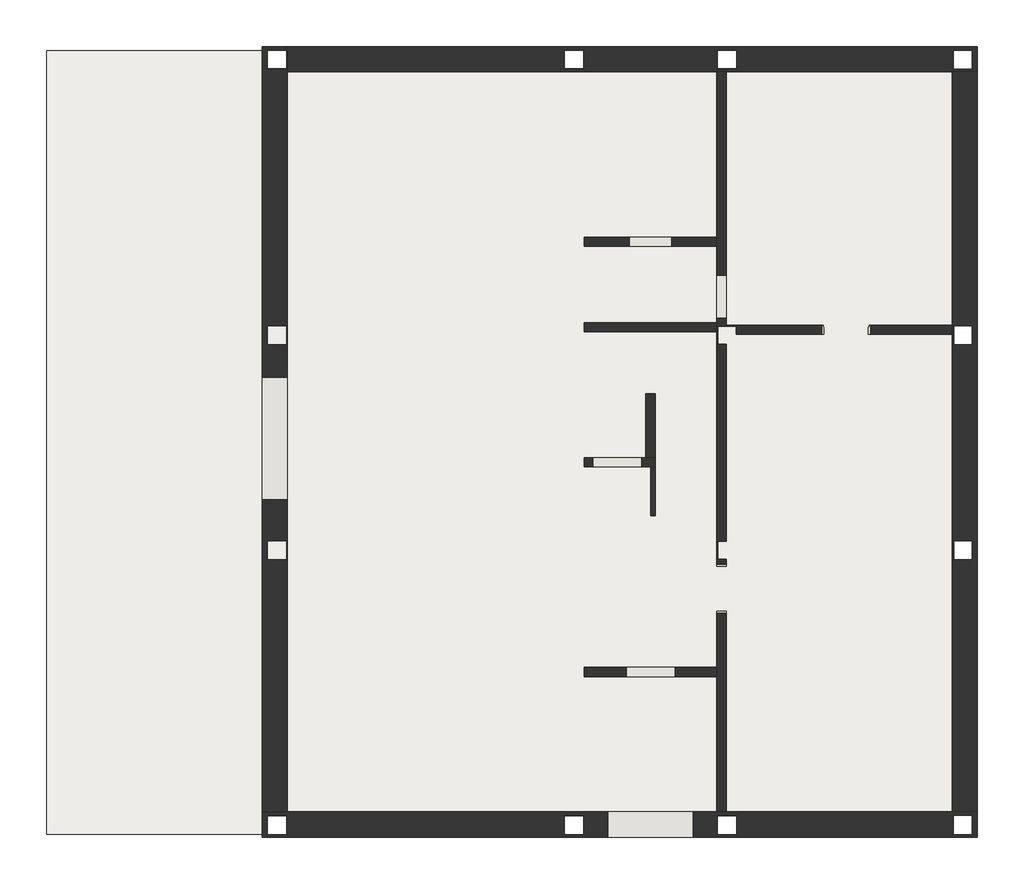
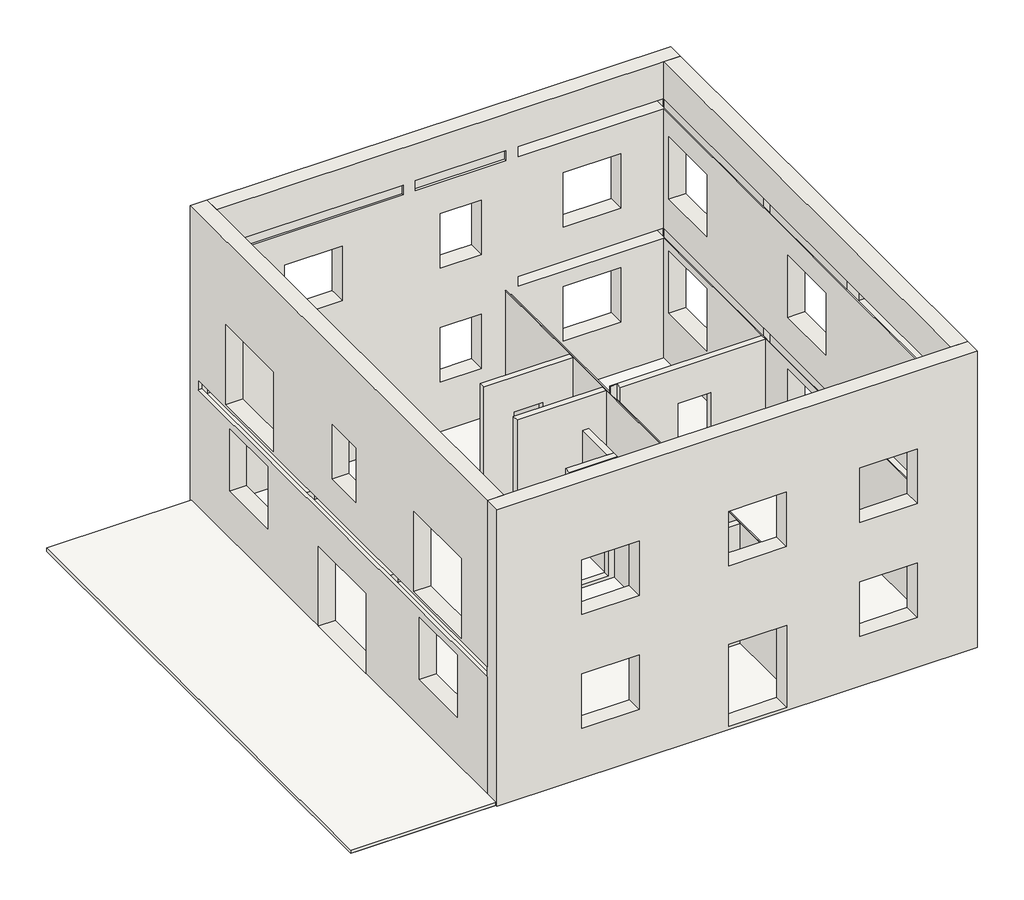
# One storey: 12 walls, 2 slabs.
"""IFC4 building model written with IfcOpenShell, lengths in millimetres."""

from ifc_helpers import new_model, si_unit, frame, origin, place, context, project, spatial, polyline, outline, extrude, faceted_brep, element, save

model = new_model("IFC4")

# Units and contexts
model_context = context("Model", 3, world=origin())
ifc_project = project(units=[si_unit("LENGTHUNIT", "METRE", prefix="MILLI")], contexts=[model_context])

# Site, building, storey
site = spatial("IfcSite", under=ifc_project)
building = spatial("IfcBuilding", under=site)
storey = spatial("IfcBuildingStorey", under=building, Name="01.ES.FORJADO PLANTA BAJA", Elevation=120.0)

# Slabs
placement = place(None, origin())
element("IfcSlab", 1, ObjectType="Forjado bovedilla + vigueta - 25 cm", at=placement, inside=storey, context=model_context, shape_type="SweptSolid", body=[
    extrude(outline(polyline([(15265.0, 12950.0), (15265.0, 750.0), (750.0, 750.0), (750.0, 12950.0), (15265.0, 12950.0)])), frame((0.0, 0.0, -130.0), z_axis=(0.0, 0.0, 1.0), x_axis=(1.0, 0.0, 0.0)), (0.0, 0.0, 1.0), 250.0),
])
element("IfcSlab", 2, ObjectType="Solera - 8 cm", at=placement, inside=storey, context=model_context, shape_type="SweptSolid", body=[
    extrude(outline(polyline([(3975.0, 13250.0), (3975.0, 450.0), (450.0, 450.0), (450.0, 13250.0), (3975.0, 13250.0)])), frame((0.0, 0.0, 120.0), z_axis=(0.0, 0.0, 1.0), x_axis=(1.0, 0.0, 0.0)), (0.0, 0.0, 1.0), 80.0),
])

# Walls
element("IfcWall", 3, ObjectType="F3.2", at=placement, inside=storey, context=model_context, shape_type="Brep", body=[
    faceted_brep([(15655.0, 815.0, 120.0), (15245.0, 815.0, 120.0), (11550.0, 815.0, 120.0), (11400.0, 815.0, 120.0), (9230.0, 815.0, 120.0), (9080.0, 815.0, 120.0), (4385.0, 815.0, 120.0), (3975.0, 815.0, 120.0), (3975.0, 815.0, 3200.0), (3975.0, 815.0, 3450.0), (3975.0, 815.0, 7730.0), (4385.0, 815.0, 7730.0), (15245.0, 815.0, 7730.0), (15655.0, 815.0, 7730.0), (11015.0, 815.0, 200.0), (11015.0, 815.0, 2300.0), (9615.0, 815.0, 2300.0), (9615.0, 815.0, 200.0), (7435.0, 815.0, 1400.0), (7435.0, 815.0, 2800.0), (6035.0, 815.0, 2800.0), (6035.0, 815.0, 1400.0), (14190.0, 815.0, 1400.0), (14190.0, 815.0, 2800.0), (12790.0, 815.0, 2800.0), (12790.0, 815.0, 1400.0), (14190.0, 815.0, 4330.0), (14190.0, 815.0, 5730.0), (12790.0, 815.0, 5730.0), (12790.0, 815.0, 4330.0), (7435.0, 815.0, 4330.0), (7435.0, 815.0, 5730.0), (6035.0, 815.0, 5730.0), (6035.0, 815.0, 4330.0), (11715.0, 815.0, 6530.0), (15245.0, 815.0, 6530.0), (15265.0, 815.0, 6530.0), (15265.0, 815.0, 6780.0), (15245.0, 815.0, 6780.0), (11715.0, 815.0, 6780.0), (11715.0, 815.0, 3200.0), (15245.0, 815.0, 3200.0), (15265.0, 815.0, 3200.0), (15265.0, 815.0, 3450.0), (15245.0, 815.0, 3450.0), (11715.0, 815.0, 3450.0), (11010.0, 815.0, 4330.0), (11010.0, 815.0, 5730.0), (9610.0, 815.0, 5730.0), (9610.0, 815.0, 4330.0), (3975.0, 405.0, 120.0), (15655.0, 405.0, 120.0), (15655.0, 405.0, 7730.0), (3975.0, 405.0, 7730.0), (11015.0, 405.0, 2300.0), (11015.0, 405.0, 200.0), (9615.0, 405.0, 200.0), (9615.0, 405.0, 2300.0), (7435.0, 405.0, 2800.0), (7435.0, 405.0, 1400.0), (6035.0, 405.0, 1400.0), (6035.0, 405.0, 2800.0), (14190.0, 405.0, 2800.0), (14190.0, 405.0, 1400.0), (12790.0, 405.0, 1400.0), (12790.0, 405.0, 2800.0), (14190.0, 405.0, 5730.0), (14190.0, 405.0, 4330.0), (12790.0, 405.0, 4330.0), (12790.0, 405.0, 5730.0), (7435.0, 405.0, 5730.0), (7435.0, 405.0, 4330.0), (6035.0, 405.0, 4330.0), (6035.0, 405.0, 5730.0), (11010.0, 405.0, 5730.0), (11010.0, 405.0, 4330.0), (9610.0, 405.0, 4330.0), (9610.0, 405.0, 5730.0), (4365.0, 750.0, 120.0), (4065.0, 750.0, 120.0), (4065.0, 450.0, 120.0), (4365.0, 450.0, 120.0), (9215.0, 750.0, 120.0), (8915.0, 750.0, 120.0), (8915.0, 450.0, 120.0), (9215.0, 450.0, 120.0), (11715.0, 750.0, 120.0), (11415.0, 750.0, 120.0), (11415.0, 450.0, 120.0), (11715.0, 450.0, 120.0), (15565.0, 750.0, 120.0), (15265.0, 750.0, 120.0), (15265.0, 450.0, 120.0), (15565.0, 450.0, 120.0), (15265.0, 750.0, 6780.0), (15565.0, 750.0, 6780.0), (15565.0, 450.0, 6780.0), (15265.0, 450.0, 6780.0), (15265.0, 475.0, 6780.0), (11715.0, 475.0, 6780.0), (11715.0, 450.0, 6780.0), (11415.0, 450.0, 6780.0), (11415.0, 750.0, 6780.0), (11715.0, 750.0, 6780.0), (15265.0, 750.0, 6530.0), (15265.0, 750.0, 3450.0), (15265.0, 750.0, 3200.0), (15565.0, 750.0, 3450.0), (15265.0, 725.0, 3200.0), (15265.0, 475.0, 3200.0), (15265.0, 475.0, 3450.0), (15265.0, 725.0, 3450.0), (15265.0, 725.0, 6530.0), (15265.0, 475.0, 6530.0), (15265.0, 450.0, 3450.0), (15565.0, 450.0, 3450.0), (11415.0, 750.0, 3450.0), (11715.0, 750.0, 3200.0), (11715.0, 750.0, 3450.0), (11715.0, 750.0, 6530.0), (11415.0, 450.0, 3450.0), (11715.0, 450.0, 3450.0), (11715.0, 475.0, 6530.0), (11715.0, 725.0, 6530.0), (11715.0, 725.0, 3450.0), (11715.0, 475.0, 3450.0), (11715.0, 475.0, 3200.0), (11715.0, 725.0, 3200.0), (8915.0, 750.0, 6780.0), (9215.0, 750.0, 6780.0), (9215.0, 450.0, 6780.0), (8915.0, 450.0, 6780.0), (8915.0, 750.0, 3450.0), (9215.0, 750.0, 3450.0), (8915.0, 450.0, 3450.0), (9215.0, 450.0, 3450.0), (4065.0, 750.0, 6780.0), (4365.0, 750.0, 6780.0), (4365.0, 450.0, 6780.0), (4065.0, 450.0, 6780.0), (4065.0, 750.0, 3450.0), (4365.0, 750.0, 3450.0), (4065.0, 450.0, 3450.0), (4365.0, 450.0, 3450.0)], [[[0, 1, 2, 3, 4, 5, 6, 7, 8, 9, 10, 11, 12, 13], [14, 15, 16, 17], [18, 19, 20, 21], [22, 23, 24, 25], [26, 27, 28, 29], [30, 31, 32, 33], [34, 35, 36, 37, 38, 39], [40, 41, 42, 43, 44, 45], [46, 47, 48, 49]], [[50, 51, 52, 53], [54, 55, 56, 57], [58, 59, 60, 61], [62, 63, 64, 65], [66, 67, 68, 69], [70, 71, 72, 73], [74, 75, 76, 77]], [[7, 6, 5, 4, 3, 2, 1, 0, 51, 50], [78, 79, 80, 81], [82, 83, 84, 85], [86, 87, 88, 89], [90, 91, 92, 93]], [[13, 12, 11, 10, 53, 52]], [[0, 13, 52, 51]], [[94, 95, 96, 97, 98, 99, 100, 101, 102, 103, 39, 38, 37]], [[95, 94, 104, 105, 106, 91, 90, 107]], [[92, 91, 106, 108, 109, 110, 111, 105, 104, 112, 113, 98, 97, 114]], [[97, 96, 115, 93, 92, 114]], [[96, 95, 107, 90, 93, 115]], [[103, 102, 116, 87, 86, 117, 118, 119]], [[102, 101, 120, 88, 87, 116]], [[101, 100, 121, 89, 88, 120]], [[86, 89, 121, 100, 99, 122, 123, 119, 118, 124, 125, 126, 127, 117]], [[128, 129, 130, 131]], [[129, 128, 132, 83, 82, 133]], [[128, 131, 134, 84, 83, 132]], [[131, 130, 135, 85, 84, 134]], [[130, 129, 133, 82, 85, 135]], [[136, 137, 138, 139]], [[137, 136, 140, 79, 78, 141]], [[136, 139, 142, 80, 79, 140]], [[139, 138, 143, 81, 80, 142]], [[138, 137, 141, 78, 81, 143]], [[15, 14, 55, 54]], [[16, 15, 54, 57]], [[17, 16, 57, 56]], [[14, 17, 56, 55]], [[19, 18, 59, 58]], [[20, 19, 58, 61]], [[21, 20, 61, 60]], [[18, 21, 60, 59]], [[23, 22, 63, 62]], [[24, 23, 62, 65]], [[25, 24, 65, 64]], [[22, 25, 64, 63]], [[27, 26, 67, 66]], [[28, 27, 66, 69]], [[29, 28, 69, 68]], [[26, 29, 68, 67]], [[31, 30, 71, 70]], [[32, 31, 70, 73]], [[33, 32, 73, 72]], [[30, 33, 72, 71]], [[34, 119, 123, 122, 113, 112, 104, 36, 35]], [[36, 104, 94, 37]], [[119, 34, 39, 103]], [[40, 117, 127, 126, 109, 108, 106, 42, 41]], [[43, 105, 111, 110, 125, 124, 118, 45, 44]], [[42, 106, 105, 43]], [[117, 40, 45, 118]], [[99, 98, 113, 122]], [[125, 110, 109, 126]], [[47, 46, 75, 74]], [[48, 47, 74, 77]], [[49, 48, 77, 76]], [[46, 49, 76, 75]], [[7, 50, 53, 10, 9, 8]]]),
])
element("IfcWall", 4, ObjectType="F3.2", at=placement, inside=storey, context=model_context, shape_type="Brep", body=[
    faceted_brep([(4385.0, 815.0, 120.0), (4385.0, 12906.5177396, 120.0), (4385.0, 13316.5177396, 120.0), (4385.0, 13316.5177396, 7730.0), (4385.0, 12906.5177396, 7730.0), (4385.0, 815.0, 7730.0), (4385.0, 815.0, 6780.0), (4385.0, 12906.5177396, 6780.0), (4385.0, 12950.0, 6780.0), (4385.0, 12950.0, 6530.0), (4385.0, 12906.5177396, 6530.0), (4385.0, 8055.0610844, 6530.0), (4385.0, 7905.0610844, 6530.0), (4385.0, 5255.0610844, 6530.0), (4385.0, 5105.0610844, 6530.0), (4385.0, 815.0, 6530.0), (4385.0, 815.0, 3450.0), (4385.0, 5105.0610844, 3450.0), (4385.0, 5255.0610844, 3450.0), (4385.0, 7905.0610844, 3450.0), (4385.0, 8055.0610844, 3450.0), (4385.0, 12975.0, 3450.0), (4385.0, 12975.0, 3200.0), (4385.0, 815.0, 3200.0), (4385.0, 1895.0305422, 3530.0), (4385.0, 1895.0305422, 5580.0), (4385.0, 3895.0305422, 5580.0), (4385.0, 3895.0305422, 3530.0), (4385.0, 9811.5177396, 3530.0), (4385.0, 9811.5177396, 5580.0), (4385.0, 11811.5177396, 5580.0), (4385.0, 11811.5177396, 3530.0), (4385.0, 7911.5177396, 2250.0), (4385.0, 7911.5177396, 200.0), (4385.0, 5911.5177396, 200.0), (4385.0, 5911.5177396, 2250.0), (4385.0, 10051.5177396, 1400.0), (4385.0, 10051.5177396, 3000.0), (4385.0, 11651.5177396, 3000.0), (4385.0, 11651.5177396, 1400.0), (4385.0, 2070.0, 1400.0), (4385.0, 2070.0, 3000.0), (4385.0, 3670.0, 3000.0), (4385.0, 3670.0, 1400.0), (4385.0, 6340.0610844, 4330.0), (4385.0, 6340.0610844, 5730.0), (4385.0, 7340.0610844, 5730.0), (4385.0, 7340.0610844, 4330.0), (3975.0, 13316.5177396, 120.0), (3975.0, 815.0, 120.0), (3975.0, 815.0, 3200.0), (3975.0, 12975.0, 3200.0), (3975.0, 12975.0, 3450.0), (3975.0, 815.0, 3450.0), (3975.0, 815.0, 7730.0), (3975.0, 13316.5177396, 7730.0), (3975.0, 1895.0305422, 5580.0), (3975.0, 1895.0305422, 3530.0), (3975.0, 3895.0305422, 3530.0), (3975.0, 3895.0305422, 5580.0), (3975.0, 9811.5177396, 5580.0), (3975.0, 9811.5177396, 3530.0), (3975.0, 11811.5177396, 3530.0), (3975.0, 11811.5177396, 5580.0), (3975.0, 7911.5177396, 200.0), (3975.0, 7911.5177396, 2250.0), (3975.0, 5911.5177396, 2250.0), (3975.0, 5911.5177396, 200.0), (3975.0, 10051.5177396, 3000.0), (3975.0, 10051.5177396, 1400.0), (3975.0, 11651.5177396, 1400.0), (3975.0, 11651.5177396, 3000.0), (3975.0, 2070.0, 3000.0), (3975.0, 2070.0, 1400.0), (3975.0, 3670.0, 1400.0), (3975.0, 3670.0, 3000.0), (3975.0, 6340.0610844, 5730.0), (3975.0, 6340.0610844, 4330.0), (3975.0, 7340.0610844, 4330.0), (3975.0, 7340.0610844, 5730.0), (4365.0, 13250.0, 120.0), (4065.0, 13250.0, 120.0), (4065.0, 12950.0, 120.0), (4365.0, 12950.0, 120.0), (4365.0, 8750.0, 120.0), (4065.0, 8750.0, 120.0), (4065.0, 8450.0, 120.0), (4365.0, 8450.0, 120.0), (4365.0, 5240.0610844, 120.0), (4065.0, 5240.0610844, 120.0), (4065.0, 4940.0610844, 120.0), (4365.0, 4940.0610844, 120.0), (4365.0, 12975.0, 3450.0), (4065.0, 12975.0, 3450.0), (4065.0, 12950.0, 3450.0), (4365.0, 12950.0, 3450.0), (4065.0, 4940.0610844, 3450.0), (4365.0, 4940.0610844, 3450.0), (4365.0, 5240.0610844, 3450.0), (4065.0, 5240.0610844, 3450.0), (4365.0, 8750.0, 3450.0), (4065.0, 8750.0, 3450.0), (4065.0, 8450.0, 3450.0), (4365.0, 8450.0, 3450.0), (4365.0, 8450.0, 3050.0), (4365.0, 5240.0610844, 3050.0), (4365.0, 4940.0610844, 3050.0), (4365.0, 815.0, 3050.0), (4365.0, 815.0, 3200.0), (4365.0, 12975.0, 3200.0), (4365.0, 12950.0, 6530.0), (4365.0, 12950.0, 6780.0), (4365.0, 13250.0, 6780.0), (4365.0, 13250.0, 3450.0), (4365.0, 12950.0, 3050.0), (4365.0, 8750.0, 3050.0), (4065.0, 4940.0610844, 3050.0), (4065.0, 815.0, 3050.0), (4065.0, 8750.0, 3050.0), (4065.0, 12950.0, 3050.0), (4065.0, 13250.0, 3450.0), (4065.0, 13250.0, 6780.0), (4065.0, 12950.0, 6780.0), (4065.0, 12975.0, 3200.0), (4065.0, 815.0, 3200.0), (4065.0, 5240.0610844, 3050.0), (4065.0, 8450.0, 3050.0), (4365.0, 12950.0, 6780.0), (4065.0, 815.0, 6780.0), (4065.0, 4940.0610844, 6780.0), (4065.0, 5240.0610844, 6780.0), (4065.0, 8450.0, 6780.0), (4065.0, 8750.0, 6780.0), (4365.0, 8750.0, 6780.0), (4365.0, 4940.0610844, 6380.0), (4365.0, 815.0, 6380.0), (4365.0, 815.0, 6530.0), (4365.0, 8750.0, 6530.0), (4365.0, 8450.0, 6380.0), (4365.0, 5240.0610844, 6380.0), (4065.0, 4940.0610844, 6380.0), (4065.0, 815.0, 6380.0), (4065.0, 5240.0610844, 6380.0), (4065.0, 8450.0, 6380.0), (4365.0, 12950.0, 6530.0)], [[[0, 1, 2, 3, 4, 5, 6, 7, 8, 9, 10, 11, 12, 13, 14, 15, 16, 17, 18, 19, 20, 21, 22, 23], [24, 25, 26, 27], [28, 29, 30, 31], [32, 33, 34, 35], [36, 37, 38, 39], [40, 41, 42, 43], [44, 45, 46, 47]], [[48, 49, 50, 51, 52, 53, 54, 55], [56, 57, 58, 59], [60, 61, 62, 63], [64, 65, 66, 67], [68, 69, 70, 71], [72, 73, 74, 75], [76, 77, 78, 79]], [[2, 1, 0, 49, 48], [80, 81, 82, 83], [84, 85, 86, 87], [88, 89, 90, 91]], [[5, 4, 3, 55, 54]], [[92, 21, 20, 19, 18, 17, 16, 53, 52, 93, 94, 95], [96, 97, 98, 99], [100, 101, 102, 103]], [[84, 87, 104, 105, 88, 91, 106, 107, 108, 109, 92, 95, 110, 111, 112, 113, 80, 83, 114, 115]], [[106, 116, 117, 107]], [[86, 85, 118, 119, 82, 81, 120, 121, 122, 94, 93, 123, 124, 117, 116, 90, 89, 125, 126]], [[127, 8, 7, 6, 128, 129, 130, 131, 132, 133]], [[134, 135, 136, 137, 100, 103, 138, 139, 98, 97]], [[135, 134, 140, 141]], [[141, 140, 96, 99, 142, 143, 102, 101, 132, 131, 130, 129, 128]], [[9, 144, 137, 136, 15, 14, 13, 12, 11, 10]], [[144, 127, 133, 137]], [[127, 144, 9, 8]], [[22, 109, 108, 23]], [[109, 22, 21, 92]], [[124, 123, 51, 50]], [[51, 123, 93, 52]], [[25, 24, 57, 56]], [[26, 25, 56, 59]], [[27, 26, 59, 58]], [[24, 27, 58, 57]], [[29, 28, 61, 60]], [[30, 29, 60, 63]], [[31, 30, 63, 62]], [[28, 31, 62, 61]], [[65, 64, 33, 32]], [[66, 65, 32, 35]], [[67, 66, 35, 34]], [[64, 67, 34, 33]], [[121, 112, 111, 122]], [[112, 121, 120, 81, 80, 113]], [[122, 111, 110, 95, 94]], [[83, 82, 119, 114]], [[89, 88, 105, 125]], [[99, 98, 139, 142]], [[134, 97, 96, 140]], [[133, 132, 101, 100, 137]], [[85, 84, 115, 118]], [[87, 86, 126, 104]], [[103, 102, 143, 138]], [[90, 116, 106, 91]], [[37, 36, 69, 68]], [[38, 37, 68, 71]], [[39, 38, 71, 70]], [[36, 39, 70, 69]], [[41, 40, 73, 72]], [[42, 41, 72, 75]], [[43, 42, 75, 74]], [[40, 43, 74, 73]], [[45, 44, 77, 76]], [[46, 45, 76, 79]], [[47, 46, 79, 78]], [[44, 47, 78, 77]], [[126, 125, 105, 104]], [[139, 138, 143, 142]], [[119, 118, 115, 114]], [[2, 48, 55, 3]], [[5, 54, 53, 16, 15, 136, 135, 141, 128, 6]], [[49, 0, 23, 108, 107, 117, 124, 50]]]),
])
element("IfcWall", 5, ObjectType="F3.2", at=placement, inside=storey, context=model_context, shape_type="Brep", body=[
    faceted_brep([(4385.0, 12906.5177396, 120.0), (9080.0, 12906.5177396, 120.0), (9230.0, 12906.5177396, 120.0), (11400.0, 12906.5177396, 120.0), (11550.0, 12906.5177396, 120.0), (15245.0, 12906.5177396, 120.0), (15655.0, 12906.5177396, 120.0), (15655.0, 12906.5177396, 7730.0), (15245.0, 12906.5177396, 7730.0), (4385.0, 12906.5177396, 7730.0), (4385.0, 12906.5177396, 6780.0), (8915.0, 12906.5177396, 6780.0), (8915.0, 12906.5177396, 6530.0), (4385.0, 12906.5177396, 6530.0), (15265.0, 12906.5177396, 6530.0), (15245.0, 12906.5177396, 6530.0), (11715.0, 12906.5177396, 6530.0), (11715.0, 12906.5177396, 6780.0), (15245.0, 12906.5177396, 6780.0), (15265.0, 12906.5177396, 6780.0), (11415.0, 12906.5177396, 6530.0), (9215.0, 12906.5177396, 6530.0), (9215.0, 12906.5177396, 6780.0), (11415.0, 12906.5177396, 6780.0), (6035.0, 12906.5177396, 1400.0), (6035.0, 12906.5177396, 2800.0), (7435.0, 12906.5177396, 2800.0), (7435.0, 12906.5177396, 1400.0), (12810.0, 12906.5177396, 1400.0), (12810.0, 12906.5177396, 2800.0), (14210.0, 12906.5177396, 2800.0), (14210.0, 12906.5177396, 1400.0), (12810.0, 12906.5177396, 4330.0), (12810.0, 12906.5177396, 5730.0), (14210.0, 12906.5177396, 5730.0), (14210.0, 12906.5177396, 4330.0), (6035.0, 12906.5177396, 4330.0), (6035.0, 12906.5177396, 5730.0), (7435.0, 12906.5177396, 5730.0), (7435.0, 12906.5177396, 4330.0), (9815.0, 12906.5177396, 4330.0), (9815.0, 12906.5177396, 5730.0), (10815.0, 12906.5177396, 5730.0), (10815.0, 12906.5177396, 4330.0), (15265.0, 12906.5177396, 3200.0), (15245.0, 12906.5177396, 3200.0), (11715.0, 12906.5177396, 3200.0), (11715.0, 12906.5177396, 3450.0), (15245.0, 12906.5177396, 3450.0), (15265.0, 12906.5177396, 3450.0), (9815.0, 12906.5177396, 1400.0), (9815.0, 12906.5177396, 2800.0), (10815.0, 12906.5177396, 2800.0), (10815.0, 12906.5177396, 1400.0), (15655.0, 13316.5177396, 120.0), (4385.0, 13316.5177396, 120.0), (4385.0, 13316.5177396, 7730.0), (15655.0, 13316.5177396, 7730.0), (6035.0, 13316.5177396, 2800.0), (6035.0, 13316.5177396, 1400.0), (7435.0, 13316.5177396, 1400.0), (7435.0, 13316.5177396, 2800.0), (12810.0, 13316.5177396, 2800.0), (12810.0, 13316.5177396, 1400.0), (14210.0, 13316.5177396, 1400.0), (14210.0, 13316.5177396, 2800.0), (12810.0, 13316.5177396, 5730.0), (12810.0, 13316.5177396, 4330.0), (14210.0, 13316.5177396, 4330.0), (14210.0, 13316.5177396, 5730.0), (6035.0, 13316.5177396, 5730.0), (6035.0, 13316.5177396, 4330.0), (7435.0, 13316.5177396, 4330.0), (7435.0, 13316.5177396, 5730.0), (9815.0, 13316.5177396, 5730.0), (9815.0, 13316.5177396, 4330.0), (10815.0, 13316.5177396, 4330.0), (10815.0, 13316.5177396, 5730.0), (9815.0, 13316.5177396, 2800.0), (9815.0, 13316.5177396, 1400.0), (10815.0, 13316.5177396, 1400.0), (10815.0, 13316.5177396, 2800.0), (15565.0, 13250.0, 120.0), (15265.0, 13250.0, 120.0), (15265.0, 12950.0, 120.0), (15565.0, 12950.0, 120.0), (11715.0, 13250.0, 120.0), (11415.0, 13250.0, 120.0), (11415.0, 12950.0, 120.0), (11715.0, 12950.0, 120.0), (9215.0, 13250.0, 120.0), (8915.0, 13250.0, 120.0), (8915.0, 12950.0, 120.0), (9215.0, 12950.0, 120.0), (8915.0, 13250.0, 6780.0), (9215.0, 13250.0, 6780.0), (9215.0, 12975.0, 6780.0), (11415.0, 12975.0, 6780.0), (11415.0, 13250.0, 6780.0), (11715.0, 13250.0, 6780.0), (11715.0, 13225.0, 6780.0), (15265.0, 13225.0, 6780.0), (15265.0, 13250.0, 6780.0), (15565.0, 13250.0, 6780.0), (15565.0, 12950.0, 6780.0), (15265.0, 12950.0, 6780.0), (11715.0, 12950.0, 6780.0), (11415.0, 12950.0, 6780.0), (9215.0, 12950.0, 6780.0), (8915.0, 12950.0, 6780.0), (8915.0, 13250.0, 3450.0), (9215.0, 13250.0, 3450.0), (8915.0, 12950.0, 6530.0), (8915.0, 12950.0, 3450.0), (9215.0, 12950.0, 6530.0), (9215.0, 12950.0, 3450.0), (9215.0, 12975.0, 6530.0), (11415.0, 13250.0, 3450.0), (11715.0, 13250.0, 3450.0), (11415.0, 12975.0, 6530.0), (11415.0, 12950.0, 6530.0), (11415.0, 12950.0, 3450.0), (11715.0, 12950.0, 6530.0), (11715.0, 12950.0, 3450.0), (11715.0, 12950.0, 3200.0), (11715.0, 12975.0, 3200.0), (11715.0, 13225.0, 3200.0), (11715.0, 13225.0, 3450.0), (11715.0, 12975.0, 3450.0), (11715.0, 12975.0, 6530.0), (11715.0, 13225.0, 6530.0), (15265.0, 13250.0, 3450.0), (15565.0, 13250.0, 3450.0), (15265.0, 13225.0, 6530.0), (15265.0, 12975.0, 6530.0), (15265.0, 12950.0, 6530.0), (15265.0, 12950.0, 3450.0), (15265.0, 12975.0, 3450.0), (15265.0, 13225.0, 3450.0), (15265.0, 13225.0, 3200.0), (15265.0, 12975.0, 3200.0), (15265.0, 12950.0, 3200.0), (15565.0, 12950.0, 3450.0), (8915.0, 12950.0, 6530.0), (4385.0, 12950.0, 6530.0), (8915.0, 12950.0, 6780.0), (4385.0, 12950.0, 6780.0)], [[[0, 1, 2, 3, 4, 5, 6, 7, 8, 9, 10, 11, 12, 13], [14, 15, 16, 17, 18, 19], [20, 21, 22, 23], [24, 25, 26, 27], [28, 29, 30, 31], [32, 33, 34, 35], [36, 37, 38, 39], [40, 41, 42, 43], [44, 45, 46, 47, 48, 49], [50, 51, 52, 53]], [[54, 55, 56, 57], [58, 59, 60, 61], [62, 63, 64, 65], [66, 67, 68, 69], [70, 71, 72, 73], [74, 75, 76, 77], [78, 79, 80, 81]], [[6, 5, 4, 3, 2, 1, 0, 55, 54], [82, 83, 84, 85], [86, 87, 88, 89], [90, 91, 92, 93]], [[9, 8, 7, 57, 56]], [[7, 6, 54, 57]], [[94, 95, 96, 97, 98, 99, 100, 101, 102, 103, 104, 105, 19, 18, 17, 106, 107, 23, 22, 108, 109]], [[95, 94, 110, 91, 90, 111]], [[94, 109, 112, 113, 92, 91, 110]], [[109, 108, 114, 115, 93, 92, 113, 112]], [[90, 93, 115, 114, 116, 96, 95, 111]], [[99, 98, 117, 87, 86, 118]], [[88, 87, 117, 98, 97, 119, 120, 121]], [[107, 106, 122, 123, 124, 89, 88, 121, 120]], [[86, 89, 124, 125, 126, 127, 128, 123, 122, 129, 130, 100, 99, 118]], [[103, 102, 131, 83, 82, 132]], [[84, 83, 131, 102, 101, 133, 134, 135, 136, 137, 138, 139, 140, 141]], [[105, 104, 142, 85, 84, 141, 136, 135]], [[104, 103, 132, 82, 85, 142]], [[122, 16, 15, 14, 135, 134, 133, 130, 129]], [[135, 14, 19, 105]], [[16, 122, 106, 17]], [[119, 116, 114, 21, 20, 120]], [[120, 20, 23, 107]], [[21, 114, 108, 22]], [[116, 119, 97, 96]], [[143, 144, 13, 12]], [[145, 11, 10, 146]], [[145, 143, 12, 11]], [[143, 145, 146, 144]], [[25, 24, 59, 58]], [[26, 25, 58, 61]], [[27, 26, 61, 60]], [[24, 27, 60, 59]], [[29, 28, 63, 62]], [[30, 29, 62, 65]], [[31, 30, 65, 64]], [[28, 31, 64, 63]], [[33, 32, 67, 66]], [[34, 33, 66, 69]], [[35, 34, 69, 68]], [[32, 35, 68, 67]], [[37, 36, 71, 70]], [[38, 37, 70, 73]], [[39, 38, 73, 72]], [[36, 39, 72, 71]], [[41, 40, 75, 74]], [[42, 41, 74, 77]], [[43, 42, 77, 76]], [[40, 43, 76, 75]], [[124, 46, 45, 44, 141, 140, 139, 126, 125]], [[136, 49, 48, 47, 123, 128, 127, 138, 137]], [[141, 44, 49, 136]], [[46, 124, 123, 47]], [[101, 100, 130, 133]], [[138, 127, 126, 139]], [[51, 50, 79, 78]], [[52, 51, 78, 81]], [[53, 52, 81, 80]], [[50, 53, 80, 79]], [[9, 56, 55, 0, 13, 144, 146, 10]]]),
])
element("IfcWall", 6, ObjectType="F3.2", at=placement, inside=storey, context=model_context, shape_type="Brep", body=[
    faceted_brep([(15245.0, 815.0, 7730.0), (15245.0, 12906.5177396, 7730.0), (15245.0, 12906.5177396, 6780.0), (15245.0, 815.0, 6780.0), (15245.0, 12906.5177396, 120.0), (15245.0, 8765.0, 120.0), (15245.0, 8615.0, 120.0), (15245.0, 815.0, 120.0), (15245.0, 815.0, 3200.0), (15245.0, 8615.0, 3200.0), (15245.0, 8765.0, 3200.0), (15245.0, 12906.5177396, 3200.0), (15245.0, 2630.0, 1400.0), (15245.0, 2630.0, 3000.0), (15245.0, 1030.0, 3000.0), (15245.0, 1030.0, 1400.0), (15245.0, 12691.5177396, 1400.0), (15245.0, 12691.5177396, 3000.0), (15245.0, 11091.5177396, 3000.0), (15245.0, 11091.5177396, 1400.0), (15245.0, 7680.0610844, 1400.0), (15245.0, 7680.0610844, 3000.0), (15245.0, 6080.0610844, 3000.0), (15245.0, 6080.0610844, 1400.0), (15245.0, 815.0, 6530.0), (15245.0, 5105.0610844, 6530.0), (15245.0, 5255.0610844, 6530.0), (15245.0, 8615.0, 6530.0), (15245.0, 8765.0, 6530.0), (15245.0, 12906.5177396, 6530.0), (15245.0, 12906.5177396, 3450.0), (15245.0, 8765.0, 3450.0), (15245.0, 8615.0, 3450.0), (15245.0, 5255.0610844, 3450.0), (15245.0, 5105.0610844, 3450.0), (15245.0, 815.0, 3450.0), (15245.0, 12691.5177396, 4330.0), (15245.0, 12691.5177396, 5930.0), (15245.0, 11091.5177396, 5930.0), (15245.0, 11091.5177396, 4330.0), (15245.0, 2630.0, 4330.0), (15245.0, 2630.0, 5930.0), (15245.0, 1030.0, 5930.0), (15245.0, 1030.0, 4330.0), (15245.0, 7680.0610844, 4330.0), (15245.0, 7680.0610844, 5930.0), (15245.0, 6080.0610844, 5930.0), (15245.0, 6080.0610844, 4330.0), (15655.0, 815.0, 120.0), (15655.0, 12906.5177396, 120.0), (15655.0, 12906.5177396, 7730.0), (15655.0, 815.0, 7730.0), (15655.0, 2630.0, 3000.0), (15655.0, 2630.0, 1400.0), (15655.0, 1030.0, 1400.0), (15655.0, 1030.0, 3000.0), (15655.0, 12691.5177396, 3000.0), (15655.0, 12691.5177396, 1400.0), (15655.0, 11091.5177396, 1400.0), (15655.0, 11091.5177396, 3000.0), (15655.0, 12691.5177396, 5930.0), (15655.0, 12691.5177396, 4330.0), (15655.0, 11091.5177396, 4330.0), (15655.0, 11091.5177396, 5930.0), (15655.0, 2630.0, 5930.0), (15655.0, 2630.0, 4330.0), (15655.0, 1030.0, 4330.0), (15655.0, 1030.0, 5930.0), (15655.0, 7680.0610844, 5930.0), (15655.0, 7680.0610844, 4330.0), (15655.0, 6080.0610844, 4330.0), (15655.0, 6080.0610844, 5930.0), (15655.0, 7680.0610844, 3000.0), (15655.0, 7680.0610844, 1400.0), (15655.0, 6080.0610844, 1400.0), (15655.0, 6080.0610844, 3000.0), (15565.0, 5240.0610844, 120.0), (15265.0, 5240.0610844, 120.0), (15265.0, 4940.0610844, 120.0), (15565.0, 4940.0610844, 120.0), (15565.0, 8750.0, 120.0), (15265.0, 8750.0, 120.0), (15265.0, 8450.0, 120.0), (15565.0, 8450.0, 120.0), (15265.0, 815.0, 6780.0), (15565.0, 815.0, 6780.0), (15565.0, 815.0, 6380.0), (15265.0, 815.0, 6380.0), (15265.0, 815.0, 6530.0), (15265.0, 815.0, 3450.0), (15565.0, 815.0, 3450.0), (15565.0, 815.0, 3050.0), (15265.0, 815.0, 3050.0), (15265.0, 815.0, 3200.0), (15265.0, 12906.5177396, 3200.0), (15265.0, 12906.5177396, 3450.0), (15265.0, 12906.5177396, 6530.0), (15265.0, 12906.5177396, 6780.0), (15265.0, 8750.0, 3450.0), (15265.0, 8450.0, 3450.0), (15265.0, 5240.0610844, 3450.0), (15265.0, 4965.0610844, 3450.0), (15265.0, 4940.0610844, 3450.0), (15565.0, 4940.0610844, 3450.0), (15565.0, 4940.0610844, 6380.0), (15565.0, 4940.0610844, 6780.0), (15565.0, 5240.0610844, 6780.0), (15565.0, 5240.0610844, 3450.0), (15565.0, 4940.0610844, 3050.0), (15265.0, 4940.0610844, 3050.0), (15265.0, 5240.0610844, 3200.0), (15265.0, 8750.0, 6780.0), (15565.0, 8750.0, 6780.0), (15565.0, 8450.0, 6780.0), (15265.0, 8450.0, 6780.0), (15265.0, 5240.0610844, 6780.0), (15265.0, 4940.0610844, 6380.0), (15265.0, 5240.0610844, 6530.0), (15265.0, 8450.0, 6530.0), (15265.0, 8750.0, 6530.0), (15265.0, 8450.0, 3200.0), (15265.0, 8750.0, 3200.0), (15565.0, 8750.0, 3450.0), (15565.0, 8450.0, 3450.0)], [[[0, 1, 2, 3]], [[4, 5, 6, 7, 8, 9, 10, 11], [12, 13, 14, 15], [16, 17, 18, 19], [20, 21, 22, 23]], [[24, 25, 26, 27, 28, 29, 30, 31, 32, 33, 34, 35], [36, 37, 38, 39], [40, 41, 42, 43], [44, 45, 46, 47]], [[48, 49, 50, 51], [52, 53, 54, 55], [56, 57, 58, 59], [60, 61, 62, 63], [64, 65, 66, 67], [68, 69, 70, 71], [72, 73, 74, 75]], [[7, 6, 5, 4, 49, 48], [76, 77, 78, 79], [80, 81, 82, 83]], [[1, 0, 51, 50]], [[7, 48, 51, 0, 3, 84, 85, 86, 87, 88, 24, 35, 89, 90, 91, 92, 93, 8]], [[1, 50, 49, 4, 11, 94, 95, 30, 29, 96, 97, 2]], [[35, 34, 33, 32, 31, 30, 95, 98, 99, 100, 101, 102, 103, 90, 89]], [[91, 90, 103, 104, 86, 85, 105, 106, 107, 76, 79, 108]], [[92, 91, 108, 109]], [[93, 92, 109, 78, 77, 110]], [[3, 2, 97, 111, 112, 113, 114, 115, 106, 105, 85, 84]], [[86, 104, 116, 87]], [[87, 116, 102, 101, 100, 117, 88]], [[29, 28, 27, 26, 25, 24, 88, 117, 118, 119, 96]], [[114, 118, 117, 115]], [[97, 96, 119, 111]], [[11, 10, 9, 8, 93, 110, 120, 121, 94]], [[100, 99, 120, 110]], [[95, 94, 121, 98]], [[112, 111, 119, 98, 121, 81, 80, 122]], [[98, 119, 118, 99]], [[114, 113, 123, 83, 82, 120, 99, 118]], [[83, 123, 113, 112, 122, 80]], [[106, 115, 117, 100, 110, 77, 76, 107]], [[104, 103, 102, 116]], [[78, 109, 108, 79]], [[81, 121, 120, 82]], [[13, 12, 53, 52]], [[14, 13, 52, 55]], [[15, 14, 55, 54]], [[12, 15, 54, 53]], [[17, 16, 57, 56]], [[18, 17, 56, 59]], [[19, 18, 59, 58]], [[16, 19, 58, 57]], [[37, 36, 61, 60]], [[38, 37, 60, 63]], [[39, 38, 63, 62]], [[36, 39, 62, 61]], [[41, 40, 65, 64]], [[42, 41, 64, 67]], [[43, 42, 67, 66]], [[40, 43, 66, 65]], [[45, 44, 69, 68]], [[46, 45, 68, 71]], [[47, 46, 71, 70]], [[44, 47, 70, 69]], [[21, 20, 73, 72]], [[22, 21, 72, 75]], [[23, 22, 75, 74]], [[20, 23, 74, 73]]]),
])
element("IfcWall", 7, ObjectType="Por defecto - 15 cm", at=placement, inside=storey, context=model_context, shape_type="Brep", body=[
    faceted_brep([(11550.0, 4940.0610844, 120.0), (11550.0, 4940.0610844, 3050.0), (11550.0, 815.0, 3050.0), (11550.0, 815.0, 200.0), (11550.0, 815.0, 120.0), (11550.0, 4095.0, 120.0), (11550.0, 4095.0, 200.0), (11550.0, 4060.0, 200.0), (11550.0, 4060.0, 2300.0), (11550.0, 4860.0, 2300.0), (11550.0, 4860.0, 200.0), (11550.0, 4825.0, 200.0), (11550.0, 4825.0, 120.0), (11550.0, 8450.0, 3050.0), (11550.0, 5240.0610844, 3050.0), (11550.0, 5240.0610844, 200.0), (11550.0, 5240.0610844, 120.0), (11550.0, 8450.0, 120.0), (11550.0, 8450.0, 200.0), (11550.0, 8750.0, 3050.0), (11550.0, 8750.0, 120.0), (11550.0, 8765.0, 120.0), (11550.0, 12906.5177396, 120.0), (11550.0, 12906.5177396, 200.0), (11550.0, 12906.5177396, 3050.0), (11550.0, 8880.0, 200.0), (11550.0, 8880.0, 2300.0), (11550.0, 9580.0, 2300.0), (11550.0, 9580.0, 200.0), (11400.0, 815.0, 3200.0), (11400.0, 3025.0, 3200.0), (11400.0, 3175.0, 3200.0), (11400.0, 8655.0, 3200.0), (11400.0, 8805.0, 3200.0), (11400.0, 10055.0, 3200.0), (11400.0, 10205.0, 3200.0), (11400.0, 12906.5177396, 3200.0), (11400.0, 12906.5177396, 120.0), (11400.0, 10205.0, 120.0), (11400.0, 10055.0, 120.0), (11400.0, 8805.0, 120.0), (11400.0, 8655.0, 120.0), (11400.0, 5650.0, 120.0), (11400.0, 4825.0, 120.0), (11400.0, 4825.0, 200.0), (11400.0, 4860.0, 200.0), (11400.0, 4860.0, 2300.0), (11400.0, 4060.0, 2300.0), (11400.0, 4060.0, 200.0), (11400.0, 4095.0, 200.0), (11400.0, 4095.0, 120.0), (11400.0, 3175.0, 120.0), (11400.0, 3025.0, 120.0), (11400.0, 815.0, 120.0), (11400.0, 815.0, 200.0), (11400.0, 8880.0, 2300.0), (11400.0, 8880.0, 200.0), (11400.0, 9580.0, 200.0), (11400.0, 9580.0, 2300.0), (11415.0, 8750.0, 120.0), (11415.0, 8450.0, 120.0), (11415.0, 5240.0610844, 120.0), (11415.0, 4940.0610844, 120.0), (11415.0, 815.0, 3200.0), (11415.0, 12906.5177396, 3200.0), (11415.0, 815.0, 3050.0), (11415.0, 12906.5177396, 3050.0), (11415.0, 8750.0, 3050.0), (11415.0, 4940.0610844, 3050.0), (11415.0, 5240.0610844, 3050.0), (11415.0, 8450.0, 3050.0)], [[[0, 1, 2, 3, 4, 5, 6, 7, 8, 9, 10, 11, 12]], [[13, 14, 15, 16, 17, 18]], [[19, 20, 21, 22, 23, 24], [25, 26, 27, 28]], [[29, 30, 31, 32, 33, 34, 35, 36, 37, 38, 39, 40, 41, 42, 43, 44, 45, 46, 47, 48, 49, 50, 51, 52, 53, 54], [55, 56, 57, 58]], [[4, 53, 52, 51, 50, 5]], [[37, 22, 21, 20, 59, 60, 17, 16, 61, 62, 0, 12, 43, 42, 41, 40, 39, 38]], [[36, 35, 34, 33, 32, 31, 30, 29, 63, 64]], [[53, 4, 3, 2, 65, 63, 29, 54]], [[22, 37, 36, 64, 66, 24, 23]], [[59, 20, 19, 67]], [[60, 59, 67, 66, 64, 63, 65, 68, 62, 61, 69, 70]], [[17, 60, 70, 13, 18]], [[61, 16, 15, 14, 69]], [[0, 62, 68, 1]], [[2, 1, 68, 65]], [[70, 69, 14, 13]], [[19, 24, 66, 67]], [[45, 10, 9, 46]], [[46, 9, 8, 47]], [[7, 48, 47, 8]], [[10, 45, 44, 11]], [[48, 7, 6, 49]], [[12, 11, 44, 43]], [[6, 5, 50, 49]], [[26, 25, 56, 55]], [[27, 26, 55, 58]], [[28, 27, 58, 57]], [[25, 28, 57, 56]]]),
])
element("IfcWall", 8, ObjectType="Por defecto - 15 cm", at=placement, inside=storey, context=model_context, shape_type="SweptSolid", body=[
    extrude(outline(polyline([(120.0, 11400.0), (3200.0, 11400.0), (3200.0, 9230.0), (120.0, 9230.0), (120.0, 11400.0)]), holes=[polyline([(200.0, 10665.0), (200.0, 9965.0), (2300.0, 9965.0), (2300.0, 10665.0), (200.0, 10665.0)])]), frame((0.0, 10055.0, 0.0), z_axis=(0.0, 1.0, 0.0), x_axis=(0.0, 0.0, 1.0)), (0.0, 0.0, 1.0), 150.0),
])
element("IfcWall", 9, ObjectType="Por defecto - 15 cm", at=placement, inside=storey, context=model_context, shape_type="Brep", body=[
    faceted_brep([(11550.0, 8765.0, 3200.0), (15245.0, 8765.0, 3200.0), (15245.0, 8765.0, 200.0), (15245.0, 8765.0, 120.0), (13885.0, 8765.0, 120.0), (13885.0, 8765.0, 200.0), (13910.0, 8765.0, 200.0), (13910.0, 8765.0, 2300.0), (13110.0, 8765.0, 2300.0), (13110.0, 8765.0, 200.0), (13135.0, 8765.0, 200.0), (13135.0, 8765.0, 120.0), (11550.0, 8765.0, 120.0), (11550.0, 8765.0, 200.0), (15245.0, 8615.0, 3200.0), (11715.0, 8615.0, 3200.0), (11715.0, 8615.0, 200.0), (11715.0, 8615.0, 120.0), (13145.0, 8615.0, 120.0), (13145.0, 8615.0, 200.0), (13110.0, 8615.0, 200.0), (13110.0, 8615.0, 2300.0), (13910.0, 8615.0, 2300.0), (13910.0, 8615.0, 200.0), (13875.0, 8615.0, 200.0), (13875.0, 8615.0, 120.0), (15245.0, 8615.0, 120.0), (15245.0, 8615.0, 200.0), (13875.0, 8730.0, 120.0), (13885.0, 8730.0, 120.0), (11550.0, 8750.0, 120.0), (13135.0, 8730.0, 120.0), (13145.0, 8730.0, 120.0), (11715.0, 8750.0, 120.0), (11550.0, 8750.0, 3200.0), (11715.0, 8750.0, 3200.0), (11550.0, 8750.0, 3050.0), (13145.0, 8730.0, 200.0), (13135.0, 8730.0, 200.0), (13885.0, 8730.0, 200.0), (13875.0, 8730.0, 200.0)], [[[0, 1, 2, 3, 4, 5, 6, 7, 8, 9, 10, 11, 12, 13]], [[14, 15, 16, 17, 18, 19, 20, 21, 22, 23, 24, 25, 26, 27]], [[3, 26, 25, 28, 29, 4]], [[30, 12, 11, 31, 32, 18, 17, 33]], [[1, 0, 34, 35, 15, 14]], [[1, 14, 27, 26, 3, 2]], [[12, 30, 36, 34, 0, 13]], [[30, 33, 35, 34, 36]], [[33, 17, 16, 15, 35]], [[7, 6, 23, 22]], [[8, 7, 22, 21]], [[9, 8, 21, 20]], [[9, 20, 19, 37, 38, 10]], [[23, 6, 5, 39, 40, 24]], [[32, 37, 19, 18]], [[37, 32, 31, 38]], [[38, 31, 11, 10]], [[29, 39, 5, 4]], [[39, 29, 28, 40]], [[40, 28, 25, 24]]]),
])
element("IfcWall", 10, ObjectType="Por defecto - 15 cm", at=placement, inside=storey, context=model_context, shape_type="SweptSolid", body=[
    extrude(outline(polyline([(120.0, 11400.0), (3200.0, 11400.0), (3200.0, 9230.0), (120.0, 9230.0), (120.0, 11400.0)]), holes=[polyline([(200.0, 10715.0), (200.0, 9915.0), (2300.0, 9915.0), (2300.0, 10715.0), (200.0, 10715.0)])]), frame((0.0, 3025.0, 0.0), z_axis=(0.0, 1.0, 0.0), x_axis=(0.0, 0.0, 1.0)), (0.0, 0.0, 1.0), 150.0),
])
element("IfcWall", 11, ObjectType="Por defecto - 15 cm", at=placement, inside=storey, context=model_context, shape_type="Brep", body=[
    faceted_brep([(10390.0, 6600.0, 120.0), (10240.0, 6600.0, 120.0), (9230.0, 6600.0, 120.0), (9230.0, 6600.0, 3200.0), (10240.0, 6600.0, 3200.0), (10390.0, 6600.0, 3200.0), (9375.0, 6600.0, 200.0), (10175.0, 6600.0, 200.0), (10175.0, 6600.0, 2300.0), (9375.0, 6600.0, 2300.0), (10390.0, 6450.0, 120.0), (10390.0, 6450.0, 3200.0), (10320.0, 6450.0, 3200.0), (9230.0, 6450.0, 3200.0), (9230.0, 6450.0, 120.0), (10320.0, 6450.0, 120.0), (9375.0, 6450.0, 200.0), (9375.0, 6450.0, 2300.0), (10175.0, 6450.0, 2300.0), (10175.0, 6450.0, 200.0)], [[[0, 1, 2, 3, 4, 5], [6, 7, 8, 9]], [[10, 11, 12, 13, 14, 15], [16, 17, 18, 19]], [[2, 1, 0, 10, 15, 14]], [[5, 4, 3, 13, 12, 11]], [[3, 2, 14, 13]], [[0, 5, 11, 10]], [[17, 16, 6, 9]], [[18, 17, 9, 8]], [[19, 18, 8, 7]], [[16, 19, 7, 6]]]),
])
element("IfcWall", 12, ObjectType="Por defecto - 15 cm", at=placement, inside=storey, context=model_context, shape_type="SweptSolid", body=[
    extrude(outline(polyline([(10390.0, 7644.0656057), (10390.0, 6600.0), (10240.0, 6600.0), (10240.0, 7644.0656057), (10390.0, 7644.0656057)])), frame((0.0, 0.0, 120.0), z_axis=(0.0, 0.0, 1.0), x_axis=(1.0, 0.0, 0.0)), (0.0, 0.0, 1.0), 3080.0),
])
element("IfcWall", 13, ObjectType="Por defecto - 15 cm", at=placement, inside=storey, context=model_context, shape_type="SweptSolid", body=[
    extrude(outline(polyline([(11400.0, 8655.0), (9230.0, 8655.0), (9230.0, 8805.0), (11400.0, 8805.0), (11400.0, 8655.0)])), frame((0.0, 0.0, 120.0), z_axis=(0.0, 0.0, 1.0), x_axis=(1.0, 0.0, 0.0)), (0.0, 0.0, 1.0), 3080.0),
])
element("IfcWall", 14, ObjectType="Por defecto - 7 cm", at=placement, inside=storey, context=model_context, shape_type="SweptSolid", body=[
    extrude(outline(polyline([(10390.0, 6450.0), (10390.0, 5650.1249817), (10320.0, 5650.1249817), (10320.0, 6450.0), (10390.0, 6450.0)])), frame((0.0, 0.0, 120.0), z_axis=(0.0, 0.0, 1.0), x_axis=(1.0, 0.0, 0.0)), (0.0, 0.0, 1.0), 3080.0),
])

save(model, "model.ifc")
